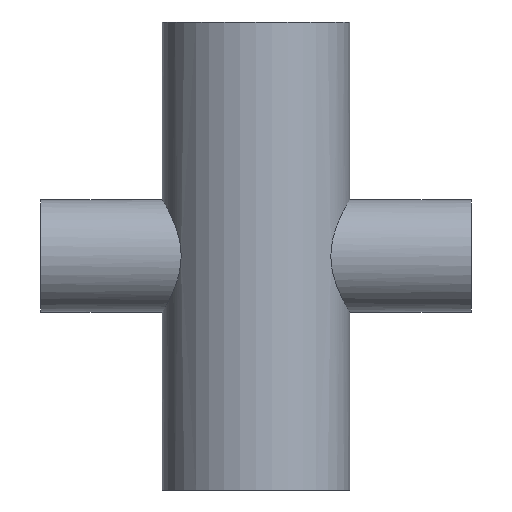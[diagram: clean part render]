
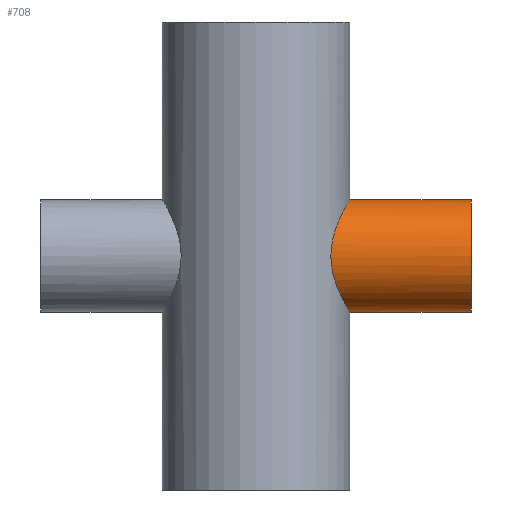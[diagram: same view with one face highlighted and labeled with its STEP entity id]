
A CAD part, front view. The second image highlights one B-rep face of the part: STEP entity #708.
In plain terms, the highlighted cylindrical face has radius 19.05 mm (diameter 38.1 mm), a partial arc.
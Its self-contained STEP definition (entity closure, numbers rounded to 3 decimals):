
#9 = ORIENTED_EDGE ( 'NONE', *, *, #651, .T. ) ;
#17 = CARTESIAN_POINT ( 'NONE',  ( 73.025, 0., -19.05 ) ) ;
#65 = CARTESIAN_POINT ( 'NONE',  ( 28.339, -14.324, -12.574 ) ) ;
#91 = VECTOR ( 'NONE', #159, 1000. ) ;
#100 = CARTESIAN_POINT ( 'NONE',  ( 73.025, 0., 0. ) ) ;
#102 = VERTEX_POINT ( 'NONE', #910 ) ;
#105 = CARTESIAN_POINT ( 'NONE',  ( 25.45, -18.983, -1.63 ) ) ;
#106 = CARTESIAN_POINT ( 'NONE',  ( 31.187, -5.962, 18.096 ) ) ;
#119 = CARTESIAN_POINT ( 'NONE',  ( 31.35, -5.058, 18.377 ) ) ;
#138 = CARTESIAN_POINT ( 'NONE',  ( 27.732, -15.465, -11.14 ) ) ;
#159 = DIRECTION ( 'NONE',  ( 1., 0., 0. ) ) ;
#161 = CARTESIAN_POINT ( 'NONE',  ( -73.025, 0., 19.05 ) ) ;
#163 = VERTEX_POINT ( 'NONE', #409 ) ;
#173 = CARTESIAN_POINT ( 'NONE',  ( 28.332, -14.362, 12.575 ) ) ;
#200 = CARTESIAN_POINT ( 'NONE',  ( 31.447, -4.419, -18.541 ) ) ;
#210 = CARTESIAN_POINT ( 'NONE',  ( 26.78, -17.066, -8.555 ) ) ;
#215 = CIRCLE ( 'NONE', #846, 19.05 ) ;
#235 = EDGE_CURVE ( 'NONE', #163, #454, #311, .T. ) ;
#245 = CARTESIAN_POINT ( 'NONE',  ( 27.337, -16.152, 10.119 ) ) ;
#249 = CARTESIAN_POINT ( 'NONE',  ( 25.523, -18.885, -2.581 ) ) ;
#270 = CARTESIAN_POINT ( 'NONE',  ( 28.541, -13.917, -13.023 ) ) ;
#275 = CARTESIAN_POINT ( 'NONE',  ( 26.155, -18.001, -6.266 ) ) ;
#283 = CARTESIAN_POINT ( 'NONE',  ( 29.53, -11.675, -15.066 ) ) ;
#311 = B_SPLINE_CURVE_WITH_KNOTS ( 'NONE', 3,
 ( #350, #851, #721, #200, #578, #426, #934, #505, #789, #354, #283, #364, #800, #270, #65, #515, #138, #590, #210, #666, #275, #586, #328, #704, #249, #105, #629, #554, #551, #908, #832, #780, #926, #573, #854, #646, #400, #700, #245, #626, #173, #769, #314, #401, #329, #480, #913, #555, #632, #909, #106, #119, #852, #584, #512, #663, #502, #719 ),
 .UNSPECIFIED., .F., .F.,
 ( 4, 2, 2, 2, 2, 2, 2, 2, 2, 2, 2, 2, 2, 2, 2, 2, 2, 2, 2, 2, 2, 2, 2, 2, 2, 2, 2, 2, 4 ),
 ( 0.061, 0.065, 0.067, 0.069, 0.073, 0.074, 0.076, 0.078, 0.08, 0.084, 0.086, 0.088, 0.09, 0.091, 0.092, 0.095, 0.097, 0.099, 0.101, 0.103, 0.107, 0.109, 0.111, 0.114, 0.115, 0.116, 0.118, 0.12, 0.122 ),
 .UNSPECIFIED. ) ;
#314 = CARTESIAN_POINT ( 'NONE',  ( 29.139, -12.619, 14.284 ) ) ;
#322 = CARTESIAN_POINT ( 'NONE',  ( -73.025, 0., -19.05 ) ) ;
#328 = CARTESIAN_POINT ( 'NONE',  ( 25.779, -18.535, -4.446 ) ) ;
#329 = CARTESIAN_POINT ( 'NONE',  ( 29.718, -11.189, 15.43 ) ) ;
#350 = CARTESIAN_POINT ( 'NONE',  ( 31.75, 0., -19.05 ) ) ;
#354 = CARTESIAN_POINT ( 'NONE',  ( 29.72, -11.183, -15.434 ) ) ;
#364 = CARTESIAN_POINT ( 'NONE',  ( 29.141, -12.613, -14.289 ) ) ;
#391 = EDGE_CURVE ( 'NONE', #454, #102, #874, .T. ) ;
#400 = CARTESIAN_POINT ( 'NONE',  ( 26.781, -17.057, 8.504 ) ) ;
#401 = CARTESIAN_POINT ( 'NONE',  ( 29.529, -11.677, 15.064 ) ) ;
#409 = CARTESIAN_POINT ( 'NONE',  ( 31.75, 0., -19.05 ) ) ;
#426 = CARTESIAN_POINT ( 'NONE',  ( 31.135, -6.248, -18.008 ) ) ;
#444 = AXIS2_PLACEMENT_3D ( 'NONE', #470, #616, #628 ) ;
#453 = EDGE_LOOP ( 'NONE', ( #527, #506, #9, #673 ) ) ;
#454 = VERTEX_POINT ( 'NONE', #713 ) ;
#458 = DIRECTION ( 'NONE',  ( 1., 0., 0. ) ) ;
#470 = CARTESIAN_POINT ( 'NONE',  ( -73.025, 0., 0. ) ) ;
#480 = CARTESIAN_POINT ( 'NONE',  ( 30.259, -9.674, 16.456 ) ) ;
#502 = CARTESIAN_POINT ( 'NONE',  ( 31.75, -0.646, 19.05 ) ) ;
#505 = CARTESIAN_POINT ( 'NONE',  ( 30.596, -8.563, -17.062 ) ) ;
#506 = ORIENTED_EDGE ( 'NONE', *, *, #235, .F. ) ;
#512 = CARTESIAN_POINT ( 'NONE',  ( 31.652, -2.575, 18.886 ) ) ;
#515 = CARTESIAN_POINT ( 'NONE',  ( 27.934, -15.098, -11.632 ) ) ;
#527 = ORIENTED_EDGE ( 'NONE', *, *, #391, .F. ) ;
#551 = CARTESIAN_POINT ( 'NONE',  ( 25.4, -19.05, -0.345 ) ) ;
#554 = CARTESIAN_POINT ( 'NONE',  ( 25.407, -19.041, -0.669 ) ) ;
#555 = CARTESIAN_POINT ( 'NONE',  ( 30.936, -7.15, 17.66 ) ) ;
#573 = CARTESIAN_POINT ( 'NONE',  ( 26.144, -18.017, 6.22 ) ) ;
#578 = CARTESIAN_POINT ( 'NONE',  ( 31.355, -5.033, -18.384 ) ) ;
#584 = CARTESIAN_POINT ( 'NONE',  ( 31.594, -3.205, 18.789 ) ) ;
#586 = CARTESIAN_POINT ( 'NONE',  ( 25.892, -18.377, -5.059 ) ) ;
#590 = CARTESIAN_POINT ( 'NONE',  ( 27.146, -16.485, -9.624 ) ) ;
#614 = FACE_OUTER_BOUND ( 'NONE', #453, .T. ) ;
#616 = DIRECTION ( 'NONE',  ( 1., 0., 0. ) ) ;
#624 = LINE ( 'NONE', #322, #91 ) ;
#626 = CARTESIAN_POINT ( 'NONE',  ( 27.924, -15.13, 11.639 ) ) ;
#628 = DIRECTION ( 'NONE',  ( 0., 0., -1. ) ) ;
#629 = CARTESIAN_POINT ( 'NONE',  ( 25.432, -19.008, -1.311 ) ) ;
#632 = CARTESIAN_POINT ( 'NONE',  ( 31.003, -6.855, 17.777 ) ) ;
#636 = VERTEX_POINT ( 'NONE', #17 ) ;
#646 = CARTESIAN_POINT ( 'NONE',  ( 26.609, -17.324, 7.948 ) ) ;
#651 = EDGE_CURVE ( 'NONE', #163, #636, #624, .T. ) ;
#663 = CARTESIAN_POINT ( 'NONE',  ( 31.73, -1.295, 19.017 ) ) ;
#666 = CARTESIAN_POINT ( 'NONE',  ( 26.302, -17.786, -6.851 ) ) ;
#673 = ORIENTED_EDGE ( 'NONE', *, *, #696, .T. ) ;
#674 = DIRECTION ( 'NONE',  ( 0., 0., -1. ) ) ;
#696 = EDGE_CURVE ( 'NONE', #636, #102, #215, .T. ) ;
#700 = CARTESIAN_POINT ( 'NONE',  ( 27.145, -16.472, 9.59 ) ) ;
#704 = CARTESIAN_POINT ( 'NONE',  ( 25.594, -18.789, -3.207 ) ) ;
#708 = ADVANCED_FACE ( 'NONE', ( #614 ), #823, .T. ) ;
#713 = CARTESIAN_POINT ( 'NONE',  ( 31.75, 0., 19.05 ) ) ;
#719 = CARTESIAN_POINT ( 'NONE',  ( 31.75, 0., 19.05 ) ) ;
#721 = CARTESIAN_POINT ( 'NONE',  ( 31.671, -2.559, -18.92 ) ) ;
#769 = CARTESIAN_POINT ( 'NONE',  ( 28.937, -13.073, 13.869 ) ) ;
#780 = CARTESIAN_POINT ( 'NONE',  ( 25.77, -18.546, 4.397 ) ) ;
#789 = CARTESIAN_POINT ( 'NONE',  ( 30.268, -9.648, -16.473 ) ) ;
#800 = CARTESIAN_POINT ( 'NONE',  ( 28.943, -13.061, -13.881 ) ) ;
#823 = CYLINDRICAL_SURFACE ( 'NONE', #444, 19.05 ) ;
#829 = VECTOR ( 'NONE', #458, 1000. ) ;
#832 = CARTESIAN_POINT ( 'NONE',  ( 25.496, -18.923, 2.533 ) ) ;
#846 = AXIS2_PLACEMENT_3D ( 'NONE', #100, #891, #674 ) ;
#851 = CARTESIAN_POINT ( 'NONE',  ( 31.75, -1.293, -19.05 ) ) ;
#852 = CARTESIAN_POINT ( 'NONE',  ( 31.443, -4.447, 18.535 ) ) ;
#854 = CARTESIAN_POINT ( 'NONE',  ( 26.29, -17.804, 6.806 ) ) ;
#874 = LINE ( 'NONE', #161, #829 ) ;
#891 = DIRECTION ( 'NONE',  ( -1., 0., 0. ) ) ;
#908 = CARTESIAN_POINT ( 'NONE',  ( 25.399, -19.051, 1.268 ) ) ;
#909 = CARTESIAN_POINT ( 'NONE',  ( 31.128, -6.261, 17.994 ) ) ;
#910 = CARTESIAN_POINT ( 'NONE',  ( 73.025, 0., 19.05 ) ) ;
#913 = CARTESIAN_POINT ( 'NONE',  ( 30.588, -8.595, 17.047 ) ) ;
#926 = CARTESIAN_POINT ( 'NONE',  ( 25.884, -18.388, 5.016 ) ) ;
#934 = CARTESIAN_POINT ( 'NONE',  ( 31.01, -6.84, -17.791 ) ) ;
